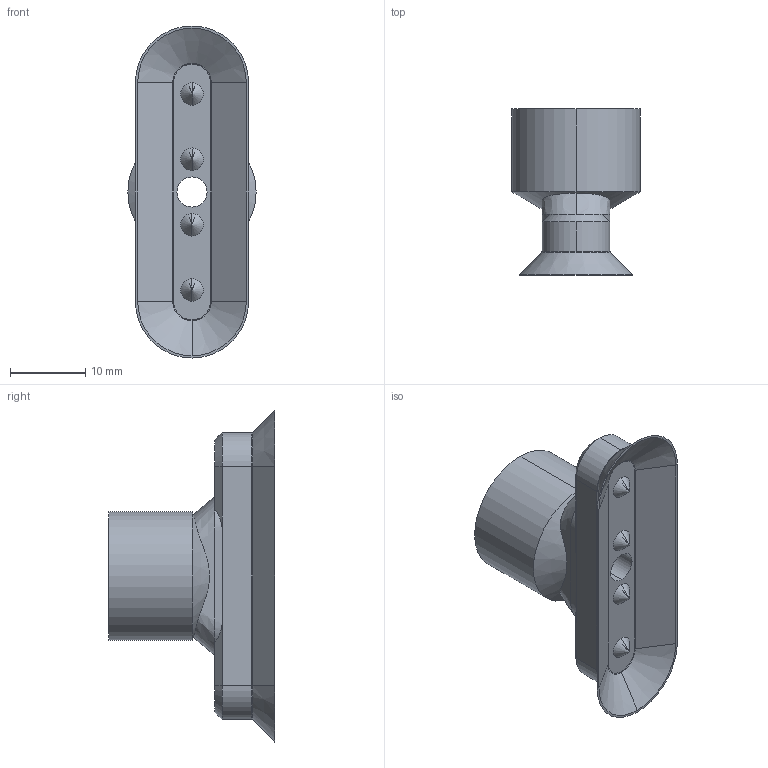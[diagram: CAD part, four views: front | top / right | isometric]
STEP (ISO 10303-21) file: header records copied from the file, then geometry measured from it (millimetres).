
FILE_DESCRIPTION (( 'STEP AP203' ), '1' );
FILE_NAME ('4V_45--A_(Ind_A).STEP', '2016-07-29T12:12:46', ( '' ), ( '' ), 'SwSTEP 2.0', 'SolidWorks 2016', '' );
FILE_SCHEMA (( 'CONFIG_CONTROL_DESIGN' ));
Length unit declared in the file: millimetre
Products named in the file (1): 4V_45--A_(Ind_A)
Bounding box: 17 x 22 x 44 mm (x, y, z)
Volume: 3712.8 mm3; surface area: 3248 mm2
Topology: 1 solids, 1 shells, 120 faces, 270 edges, 154 vertices
Faces by surface type: torus 33, cylinder 28, plane 24, cone 19, bspline 16
Entity records: 5096 total; most frequent: CARTESIAN_POINT 2435, DIRECTION 557, ORIENTED_EDGE 524, EDGE_CURVE 262, AXIS2_PLACEMENT_3D 240, VERTEX_POINT 154, CIRCLE 135, EDGE_LOOP 132
